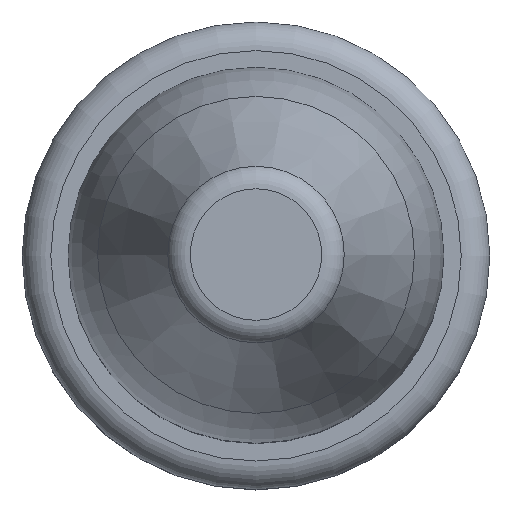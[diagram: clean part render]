
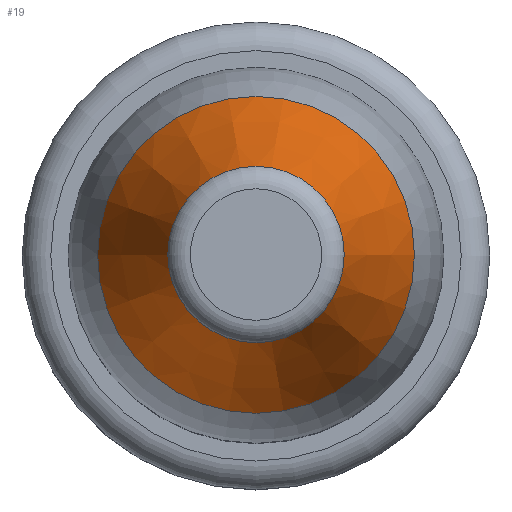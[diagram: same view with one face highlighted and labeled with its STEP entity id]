
A CAD part, top view. The second image highlights one B-rep face of the part: STEP entity #19.
In plain terms, the highlighted conical face has half-angle 20 degrees and reference radius 4.216 mm.
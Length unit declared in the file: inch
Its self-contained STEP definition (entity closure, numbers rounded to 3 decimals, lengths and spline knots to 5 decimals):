
#17 = AXIS2_PLACEMENT_3D ( 'NONE', #94, #202, #220 ) ;
#19 = ADVANCED_FACE ( 'NONE', ( #151, #22 ), #76, .T. ) ;
#22 = FACE_OUTER_BOUND ( 'NONE', #172, .T. ) ;
#44 = VERTEX_POINT ( 'NONE', #212 ) ;
#48 = DIRECTION ( 'NONE',  ( 0., 0., 1. ) ) ;
#53 = DIRECTION ( 'NONE',  ( 1., 0., 0. ) ) ;
#70 = ORIENTED_EDGE ( 'NONE', *, *, #203, .T. ) ;
#76 = CONICAL_SURFACE ( 'NONE', #17, 0.16597, 0.349 ) ;
#83 = VERTEX_POINT ( 'NONE', #157 ) ;
#94 = CARTESIAN_POINT ( 'NONE',  ( 0., 0., 0.75011 ) ) ;
#105 = CARTESIAN_POINT ( 'NONE',  ( 0., 0., 0.75011 ) ) ;
#122 = CIRCLE ( 'NONE', #131, 0.0924 ) ;
#123 = EDGE_CURVE ( 'NONE', #83, #83, #122, .T. ) ;
#124 = DIRECTION ( 'NONE',  ( 1., 0., 0. ) ) ;
#128 = EDGE_LOOP ( 'NONE', ( #191 ) ) ;
#131 = AXIS2_PLACEMENT_3D ( 'NONE', #132, #216, #53 ) ;
#132 = CARTESIAN_POINT ( 'NONE',  ( 0., 0., 0.95225 ) ) ;
#151 = FACE_BOUND ( 'NONE', #128, .T. ) ;
#157 = CARTESIAN_POINT ( 'NONE',  ( 0.0924, 0., 0.95225 ) ) ;
#159 = CIRCLE ( 'NONE', #177, 0.16597 ) ;
#172 = EDGE_LOOP ( 'NONE', ( #70 ) ) ;
#177 = AXIS2_PLACEMENT_3D ( 'NONE', #105, #48, #124 ) ;
#191 = ORIENTED_EDGE ( 'NONE', *, *, #123, .F. ) ;
#202 = DIRECTION ( 'NONE',  ( 0., 0., -1. ) ) ;
#203 = EDGE_CURVE ( 'NONE', #44, #44, #159, .T. ) ;
#212 = CARTESIAN_POINT ( 'NONE',  ( 0.16597, 0., 0.75011 ) ) ;
#216 = DIRECTION ( 'NONE',  ( 0., 0., 1. ) ) ;
#220 = DIRECTION ( 'NONE',  ( -1., 0., 0. ) ) ;
